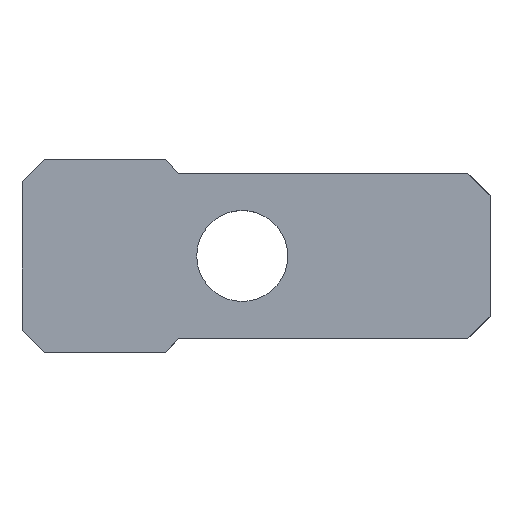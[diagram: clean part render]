
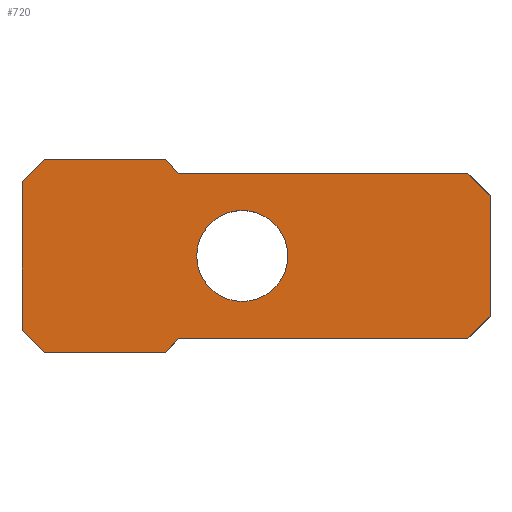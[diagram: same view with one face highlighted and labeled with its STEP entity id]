
A CAD part, top view. The second image highlights one B-rep face of the part: STEP entity #720.
In plain terms, the highlighted planar face has unit normal (0, 0, 1).
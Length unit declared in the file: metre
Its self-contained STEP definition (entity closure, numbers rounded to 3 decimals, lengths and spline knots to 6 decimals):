
#17=PLANE('',#791);
#67=LINE('',#1143,#141);
#71=LINE('',#1150,#145);
#72=LINE('',#1153,#146);
#73=LINE('',#1155,#147);
#74=LINE('',#1157,#148);
#75=LINE('',#1159,#149);
#76=LINE('',#1161,#150);
#77=LINE('',#1162,#151);
#78=LINE('',#1164,#152);
#79=LINE('',#1166,#153);
#80=LINE('',#1168,#154);
#81=LINE('',#1170,#155);
#141=VECTOR('',#918,1.);
#145=VECTOR('',#926,1.);
#146=VECTOR('',#927,1.);
#147=VECTOR('',#928,1.);
#148=VECTOR('',#929,1.);
#149=VECTOR('',#930,1.);
#150=VECTOR('',#931,1.);
#151=VECTOR('',#932,1.);
#152=VECTOR('',#933,1.);
#153=VECTOR('',#934,1.);
#154=VECTOR('',#935,1.);
#155=VECTOR('',#936,1.);
#256=ORIENTED_EDGE('',*,*,#455,.T.);
#257=ORIENTED_EDGE('',*,*,#456,.T.);
#258=ORIENTED_EDGE('',*,*,#457,.T.);
#259=ORIENTED_EDGE('',*,*,#458,.T.);
#260=ORIENTED_EDGE('',*,*,#459,.T.);
#261=ORIENTED_EDGE('',*,*,#460,.T.);
#262=ORIENTED_EDGE('',*,*,#451,.T.);
#263=ORIENTED_EDGE('',*,*,#461,.T.);
#264=ORIENTED_EDGE('',*,*,#462,.F.);
#265=ORIENTED_EDGE('',*,*,#463,.T.);
#266=ORIENTED_EDGE('',*,*,#464,.F.);
#267=ORIENTED_EDGE('',*,*,#465,.T.);
#268=ORIENTED_EDGE('',*,*,#408,.F.);
#269=ORIENTED_EDGE('',*,*,#466,.F.);
#408=EDGE_CURVE('',#516,#517,#588,.F.);
#451=EDGE_CURVE('',#553,#552,#67,.T.);
#455=EDGE_CURVE('',#554,#555,#71,.T.);
#456=EDGE_CURVE('',#555,#556,#72,.T.);
#457=EDGE_CURVE('',#556,#557,#73,.T.);
#458=EDGE_CURVE('',#557,#558,#74,.F.);
#459=EDGE_CURVE('',#558,#559,#75,.T.);
#460=EDGE_CURVE('',#559,#553,#76,.T.);
#461=EDGE_CURVE('',#552,#560,#77,.F.);
#462=EDGE_CURVE('',#561,#560,#78,.T.);
#463=EDGE_CURVE('',#561,#562,#79,.F.);
#464=EDGE_CURVE('',#563,#562,#80,.T.);
#465=EDGE_CURVE('',#563,#554,#81,.T.);
#466=EDGE_CURVE('',#517,#516,#605,.F.);
#516=VERTEX_POINT('',#1054);
#517=VERTEX_POINT('',#1055);
#552=VERTEX_POINT('',#1142);
#553=VERTEX_POINT('',#1144);
#554=VERTEX_POINT('',#1151);
#555=VERTEX_POINT('',#1152);
#556=VERTEX_POINT('',#1154);
#557=VERTEX_POINT('',#1156);
#558=VERTEX_POINT('',#1158);
#559=VERTEX_POINT('',#1160);
#560=VERTEX_POINT('',#1163);
#561=VERTEX_POINT('',#1165);
#562=VERTEX_POINT('',#1167);
#563=VERTEX_POINT('',#1169);
#588=CIRCLE('',#760,0.0105);
#605=CIRCLE('',#792,0.0105);
#628=EDGE_LOOP('',(#256,#257,#258,#259,#260,#261,#262,#263,#264,#265,#266,
#267));
#629=EDGE_LOOP('',(#268,#269));
#668=FACE_BOUND('',#628,.T.);
#669=FACE_BOUND('',#629,.T.);
#720=ADVANCED_FACE('',(#668,#669),#17,.F.);
#760=AXIS2_PLACEMENT_3D('',#1053,#835,#836);
#791=AXIS2_PLACEMENT_3D('',#1149,#924,#925);
#792=AXIS2_PLACEMENT_3D('',#1171,#937,#938);
#835=DIRECTION('',(0.,0.,-1.));
#836=DIRECTION('',(-1.,0.,0.));
#918=DIRECTION('',(1.,0.,0.));
#924=DIRECTION('',(0.,0.,-1.));
#925=DIRECTION('',(0.,-1.,0.));
#926=DIRECTION('',(-1.,0.,0.));
#927=DIRECTION('',(-0.707,0.707,0.));
#928=DIRECTION('',(-1.,0.,0.));
#929=DIRECTION('',(0.707,0.707,0.));
#930=DIRECTION('',(0.,-1.,0.));
#931=DIRECTION('',(0.707,-0.707,0.));
#932=DIRECTION('',(-0.707,-0.707,0.));
#933=DIRECTION('',(-1.,0.,0.));
#934=DIRECTION('',(-0.707,-0.707,0.));
#935=DIRECTION('',(0.,-1.,0.));
#936=DIRECTION('',(-0.707,0.707,0.));
#937=DIRECTION('',(0.,0.,-1.));
#938=DIRECTION('',(-1.,0.,0.));
#1053=CARTESIAN_POINT('',(0.,0.,0.051435));
#1054=CARTESIAN_POINT('',(-0.0105,0.,0.051435));
#1055=CARTESIAN_POINT('',(0.0105,0.,0.051435));
#1142=CARTESIAN_POINT('',(-0.01778,-0.022225,0.051435));
#1143=CARTESIAN_POINT('',(-0.03175,-0.022225,0.051435));
#1144=CARTESIAN_POINT('',(-0.04572,-0.022225,0.051435));
#1149=CARTESIAN_POINT('',(-0.03175,0.047625,0.051435));
#1150=CARTESIAN_POINT('',(0.0127,0.01905,0.051435));
#1151=CARTESIAN_POINT('',(0.05207,0.01905,0.051435));
#1152=CARTESIAN_POINT('',(-0.014605,0.01905,0.051435));
#1153=CARTESIAN_POINT('',(-0.01778,0.022225,0.051435));
#1154=CARTESIAN_POINT('',(-0.01778,0.022225,0.051435));
#1155=CARTESIAN_POINT('',(-0.03175,0.022225,0.051435));
#1156=CARTESIAN_POINT('',(-0.04572,0.022225,0.051435));
#1157=CARTESIAN_POINT('',(-0.0508,0.017145,0.051435));
#1158=CARTESIAN_POINT('',(-0.0508,0.017145,0.051435));
#1159=CARTESIAN_POINT('',(-0.0508,0.047625,0.051435));
#1160=CARTESIAN_POINT('',(-0.0508,-0.017145,0.051435));
#1161=CARTESIAN_POINT('',(-0.0508,-0.017145,0.051435));
#1162=CARTESIAN_POINT('',(-0.01778,-0.022225,0.051435));
#1163=CARTESIAN_POINT('',(-0.014605,-0.01905,0.051435));
#1164=CARTESIAN_POINT('',(0.0127,-0.01905,0.051435));
#1165=CARTESIAN_POINT('',(0.05207,-0.01905,0.051435));
#1166=CARTESIAN_POINT('',(0.05207,-0.01905,0.051435));
#1167=CARTESIAN_POINT('',(0.05715,-0.01397,0.051435));
#1168=CARTESIAN_POINT('',(0.05715,0.,0.051435));
#1169=CARTESIAN_POINT('',(0.05715,0.01397,0.051435));
#1170=CARTESIAN_POINT('',(0.05715,0.01397,0.051435));
#1171=CARTESIAN_POINT('',(0.,0.,0.051435));
